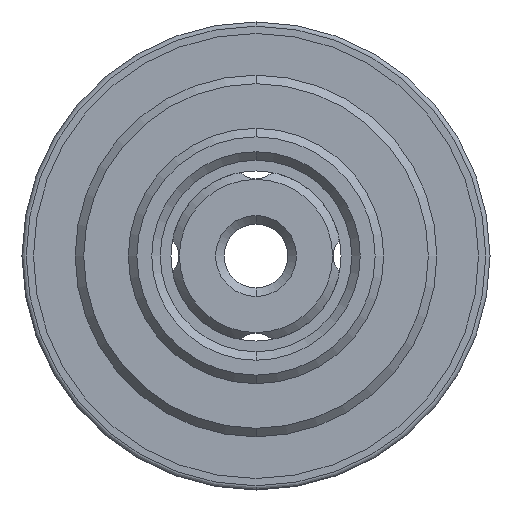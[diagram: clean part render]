
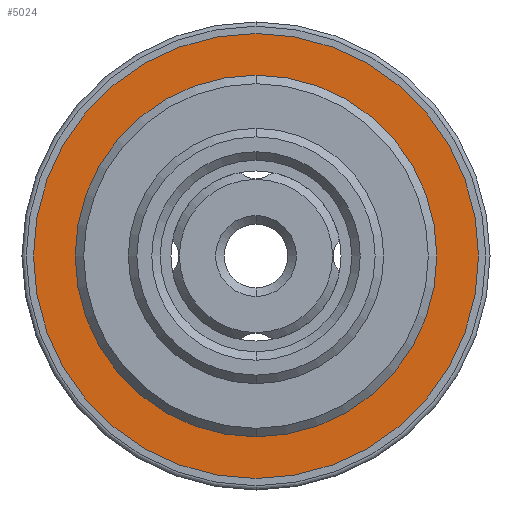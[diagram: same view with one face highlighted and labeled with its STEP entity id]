
A CAD part, front view. The second image highlights one B-rep face of the part: STEP entity #5024.
In plain terms, the highlighted planar face has unit normal (0, -1, 0).
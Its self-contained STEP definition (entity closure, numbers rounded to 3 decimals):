
#245 = FACE_BOUND ( 'NONE', #6156, .T. ) ;
#615 = CARTESIAN_POINT ( 'NONE',  ( 0., -10.9, 4.035 ) ) ;
#843 = DIRECTION ( 'NONE',  ( 0., 1., 0. ) ) ;
#911 = DIRECTION ( 'NONE',  ( 0., 0., 1. ) ) ;
#1051 = CARTESIAN_POINT ( 'NONE',  ( 0., -10.9, -4.035 ) ) ;
#1052 = AXIS2_PLACEMENT_3D ( 'NONE', #3864, #3265, #5306 ) ;
#1127 = VERTEX_POINT ( 'NONE', #1051 ) ;
#1415 = AXIS2_PLACEMENT_3D ( 'NONE', #3294, #1710, #4369 ) ;
#1645 = VERTEX_POINT ( 'NONE', #4059 ) ;
#1710 = DIRECTION ( 'NONE',  ( 0., 1., 0. ) ) ;
#2175 = CIRCLE ( 'NONE', #3885, 4.035 ) ;
#2756 = FACE_OUTER_BOUND ( 'NONE', #5322, .T. ) ;
#2826 = PLANE ( 'NONE',  #1415 ) ;
#2950 = ORIENTED_EDGE ( 'NONE', *, *, #4408, .T. ) ;
#3137 = DIRECTION ( 'NONE',  ( 0., 0., 1. ) ) ;
#3149 = VERTEX_POINT ( 'NONE', #3270 ) ;
#3214 = EDGE_CURVE ( 'NONE', #6159, #1127, #2175, .T. ) ;
#3265 = DIRECTION ( 'NONE',  ( 0., 1., 0. ) ) ;
#3270 = CARTESIAN_POINT ( 'NONE',  ( 0., -10.9, -5.23 ) ) ;
#3294 = CARTESIAN_POINT ( 'NONE',  ( 4.035, -10.9, 0. ) ) ;
#3314 = CIRCLE ( 'NONE', #1052, 5.23 ) ;
#3599 = DIRECTION ( 'NONE',  ( 0., 1., 0. ) ) ;
#3677 = ORIENTED_EDGE ( 'NONE', *, *, #6427, .F. ) ;
#3713 = DIRECTION ( 'NONE',  ( 0., 1., 0. ) ) ;
#3864 = CARTESIAN_POINT ( 'NONE',  ( 0., -10.9, 0. ) ) ;
#3885 = AXIS2_PLACEMENT_3D ( 'NONE', #3998, #843, #911 ) ;
#3967 = CIRCLE ( 'NONE', #4944, 5.23 ) ;
#3998 = CARTESIAN_POINT ( 'NONE',  ( 0., -10.9, 0. ) ) ;
#4046 = CARTESIAN_POINT ( 'NONE',  ( 0., -10.9, 0. ) ) ;
#4059 = CARTESIAN_POINT ( 'NONE',  ( 0., -10.9, 5.23 ) ) ;
#4236 = ORIENTED_EDGE ( 'NONE', *, *, #4247, .F. ) ;
#4247 = EDGE_CURVE ( 'NONE', #3149, #1645, #3967, .T. ) ;
#4369 = DIRECTION ( 'NONE',  ( 0., 0., 1. ) ) ;
#4404 = AXIS2_PLACEMENT_3D ( 'NONE', #4046, #3599, #3137 ) ;
#4408 = EDGE_CURVE ( 'NONE', #1127, #6159, #6335, .T. ) ;
#4944 = AXIS2_PLACEMENT_3D ( 'NONE', #6267, #3713, #5763 ) ;
#5024 = ADVANCED_FACE ( 'NONE', ( #2756, #245 ), #2826, .F. ) ;
#5306 = DIRECTION ( 'NONE',  ( 0., 0., 1. ) ) ;
#5322 = EDGE_LOOP ( 'NONE', ( #3677, #4236 ) ) ;
#5406 = ORIENTED_EDGE ( 'NONE', *, *, #3214, .T. ) ;
#5763 = DIRECTION ( 'NONE',  ( 0., 0., 1. ) ) ;
#6156 = EDGE_LOOP ( 'NONE', ( #5406, #2950 ) ) ;
#6159 = VERTEX_POINT ( 'NONE', #615 ) ;
#6267 = CARTESIAN_POINT ( 'NONE',  ( 0., -10.9, 0. ) ) ;
#6335 = CIRCLE ( 'NONE', #4404, 4.035 ) ;
#6427 = EDGE_CURVE ( 'NONE', #1645, #3149, #3314, .T. ) ;
